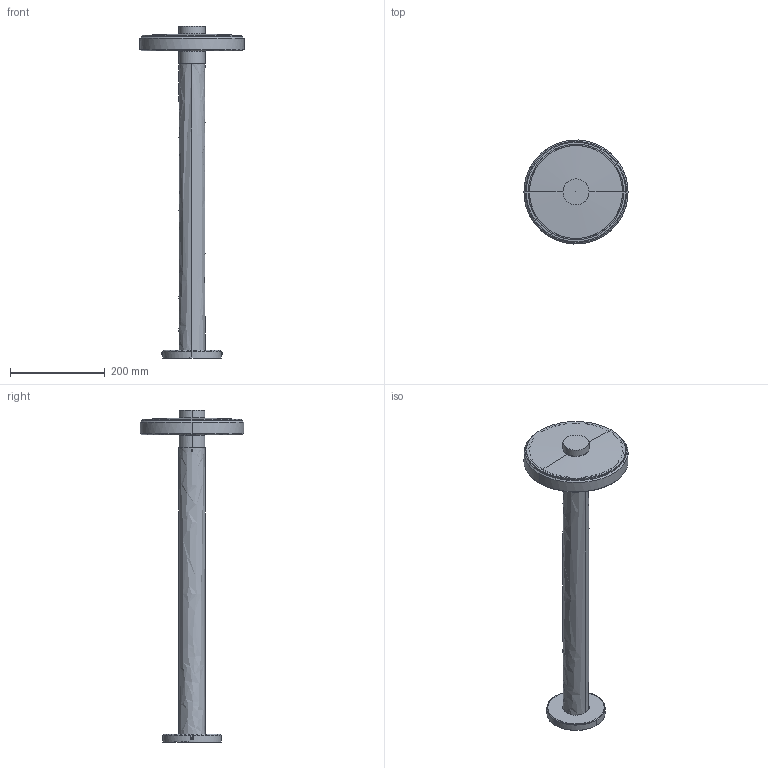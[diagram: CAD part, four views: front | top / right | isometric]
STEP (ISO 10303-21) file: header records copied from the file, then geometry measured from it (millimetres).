
FILE_DESCRIPTION(/* description */ (''),/* implementation_level */ '2;1');
FILE_NAME(/* name */ 'ET048.070',/* time_stamp */ '2024-09-03T12:27:24+02:00',/* author */ (''),/* organization */ (''),/* preprocessor_version */ 'ST-DEVELOPER v16.5',/* originating_system */ '',/* authorisation */ '');
FILE_SCHEMA (('AUTOMOTIVE_DESIGN'));
Length unit declared in the file: millimetre
Products named in the file (1): Document
Bounding box: 220 x 219.81 x 701.83 mm (x, y, z)
Volume: 1490823.7 mm3; surface area: 436116.7 mm2
Topology: 12 solids, 12 shells, 287 faces, 680 edges, 400 vertices
Faces by surface type: bspline 203, plane 84
Entity records: 13057 total; most frequent: CARTESIAN_POINT 9055, ORIENTED_EDGE 1304, EDGE_CURVE 652, VERTEX_POINT 400, B_SPLINE_CURVE_WITH_KNOTS 361, EDGE_LOOP 342, ADVANCED_FACE 287, FACE_OUTER_BOUND 287
